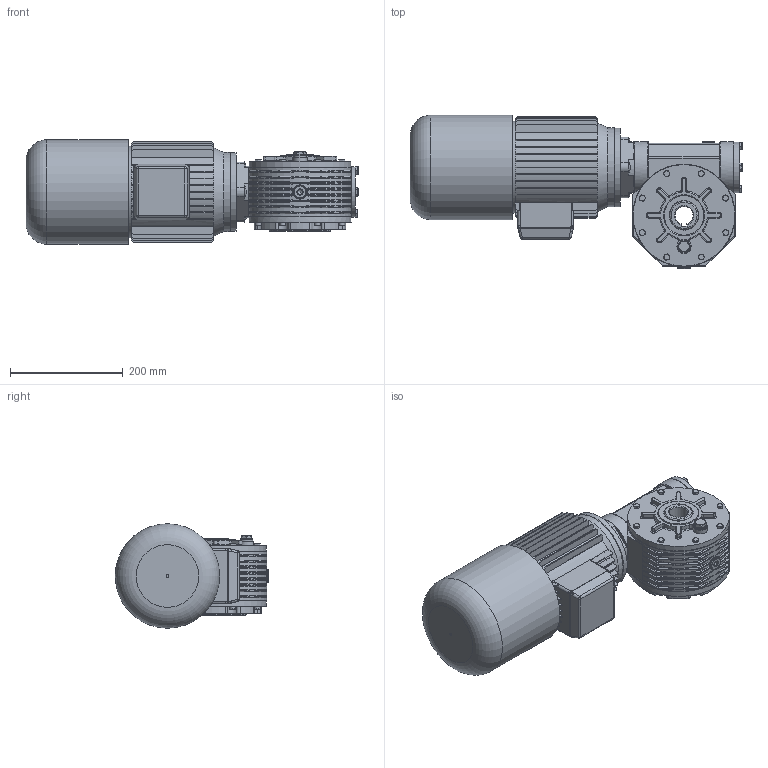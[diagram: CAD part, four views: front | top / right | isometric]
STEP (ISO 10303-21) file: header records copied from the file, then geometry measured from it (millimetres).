
FILE_DESCRIPTION((''),'2;1');
FILE_NAME('Y:\Archivi Inventor\Prog_01\GRAND_40\figurini\MRV40_SITO\90S_AUTOFRENANTE\MRV40_FP2_90S_B14.stp','2013-02-06T14:40:29',('tech3'),(''),'Autodesk Inventor 2013','Autodesk Inventor 2013','');
FILE_SCHEMA(('AUTOMOTIVE_DESIGN { 1 0 10303 214 1 1 1 1 }'));
Length unit declared in the file: millimetre
Products named in the file (20): MRV40_90S_90L_B14; MRV40 figurino; 0104001.A0 figurino; 0104009.A0 figurino; 0104028; 0104029; fig_mozzo corona. MRV-RV40cusc_conici; PARAOLIO 35x47x8; PARAOLIO 50x70x10; Guarnizione 3_8 GAS; Tappo 3_8 GAS_esagn_incsst; UNI 5931  M 8 x  25; FIG_0104002; DIN EN 24017 M6 x 20; DIN EN ISO 4762 M6 x 20; Tappo3_8 GAS; FIG_0104004; UNI 5739 M8 x 20; 0104006; motori B14 brake 90S
Assembly tree (45 placements, depth 3):
  MRV40_90S_90L_B14
    MRV40 figurino
      0104001.A0 figurino
      0104009.A0 figurino
      0104028  x2
      0104029  x2
      fig_mozzo corona. MRV-RV40cusc_conici
      PARAOLIO 35x47x8
      PARAOLIO 50x70x10  x2
      Guarnizione 3_8 GAS  x3
      Tappo 3_8 GAS_esagn_incsst  x2
      UNI 5931  M 8 x  25  x4
      FIG_0104002
      DIN EN 24017 M6 x 20  x8
      DIN EN ISO 4762 M6 x 20  x8
      Tappo3_8 GAS
      FIG_0104004
      UNI 5739 M8 x 20  x4
    0104006
    motori B14 brake 90S
Bounding box: 588.1 x 272 x 185 mm (x, y, z)
Volume: 8636347.1 mm3; surface area: 1021621.3 mm2
Topology: 45 solids, 45 shells, 2056 faces, 4944 edges, 2954 vertices
Faces by surface type: plane 867, cylinder 662, bspline 161, torus 160, cone 154, sphere 52
Full cylindrical faces by diameter (mm): 2 x2, 4.917 x16, 5 x1, 6 x16, 6.5 x32, 6.647 x4, 8 x10, 8.376 x4, 8.5 x12, 8.75 x4, 8.88 x8, 9 x4, 10 x8, 11.63 x4, 13 x4, 13.046 x1, 14.95 x3, 16.3 x3, 16.5 x2, 22 x6, 24 x1, 25 x2, 39.605 x1, 43.5 x1, 47 x2, 50 x1, 55 x1, 56.381 x2, 62 x3, 65 x2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
Entity records: 56854 total; most frequent: CARTESIAN_POINT 17935, DIRECTION 8122, ORIENTED_EDGE 7562, EDGE_CURVE 3781, AXIS2_PLACEMENT_3D 3236, VERTEX_POINT 2387, EDGE_LOOP 1990, FACE_OUTER_BOUND 1660
